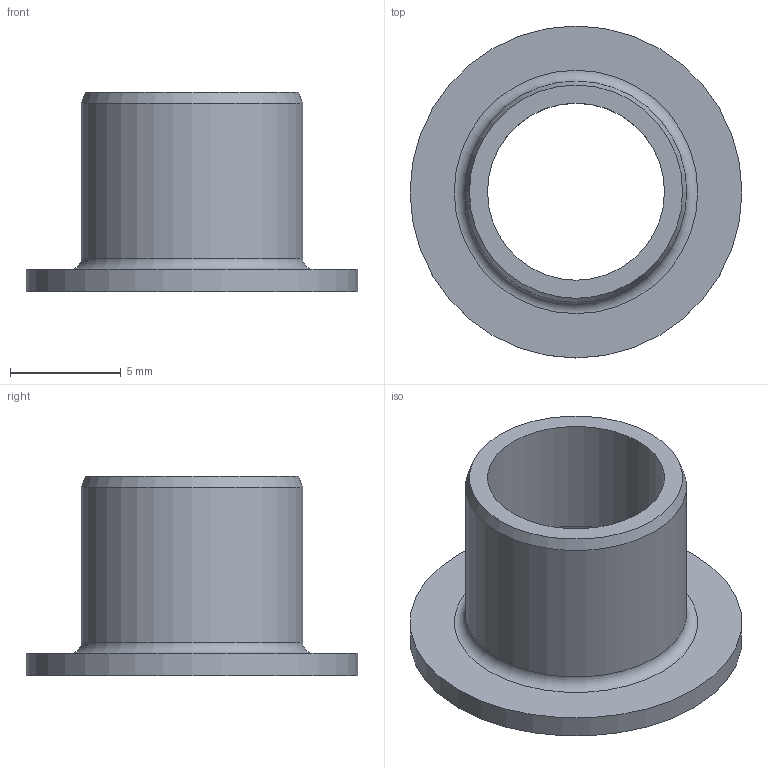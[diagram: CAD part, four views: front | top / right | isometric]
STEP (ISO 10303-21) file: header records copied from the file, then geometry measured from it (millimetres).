
FILE_DESCRIPTION(/* description */ ('STEP AP242 Edition 2','CAx-IF Rec.Pracs.---Representation and Presentation of Product Manufacturing Information (PMI)---4.0---2014-10-13','CAx-IF Rec.Pracs.---3D Tessellated Geometry---0.4---2014-09-14','2;1','CAx-IF Rec.Pracs.---User Defined Attributes---1.5---2016-08-15'),/* implementation_level */ '2;1');
FILE_NAME(/* name */ 'Assy_ForMFG - MZDF-8-8 (2)',/* time_stamp */ '2026-05-15T19:56:54Z',/* author */ (''),/* organization */ (''),/* preprocessor_version */ 'ST-DEVELOPER v20',/* originating_system */ 'ONSHAPE BY PTC INC, 1.215',/* authorisation */ ' ');
FILE_SCHEMA (('AP242_MANAGED_MODEL_BASED_3D_ENGINEERING_MIM_LF { 1 0 10303 442 3 1 4 }'));
Length unit declared in the file: metre
Products named in the file (1): MZDF-8-8
Bounding box: 15 x 15 x 9 mm (x, y, z)
Volume: 274 mm3; surface area: 733.7 mm2
Topology: 1 solids, 1 shells, 8 faces, 14 edges, 8 vertices
Faces by surface type: cylinder 3, plane 2, torus 2, cone 1
Full cylindrical faces by diameter (mm): 8 x1, 10 x1, 15 x1
Entity records: 190 total; most frequent: DIRECTION 34, CARTESIAN_POINT 25, AXIS2_PLACEMENT_3D 17, ORIENTED_EDGE 16, EDGE_LOOP 16, FACE_BOUND 16, EDGE_CURVE 8, VERTEX_POINT 8
